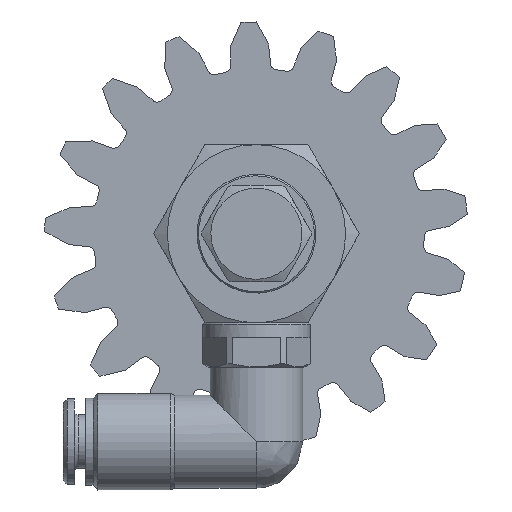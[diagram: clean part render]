
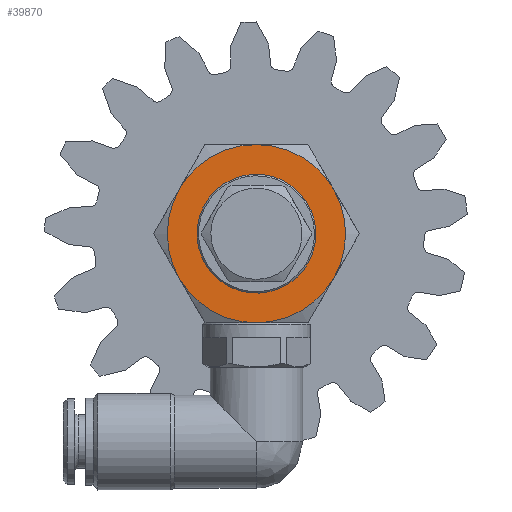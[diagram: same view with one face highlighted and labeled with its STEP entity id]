
A CAD part, front view. The second image highlights one B-rep face of the part: STEP entity #39870.
In plain terms, the highlighted planar face has unit normal (0, -1, 0).
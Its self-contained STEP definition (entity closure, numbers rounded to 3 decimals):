
#426 = VERTEX_POINT ( 'NONE', #39101 ) ;
#595 = ORIENTED_EDGE ( 'NONE', *, *, #33281, .F. ) ;
#2489 = DIRECTION ( 'NONE',  ( 0., 1., 0. ) ) ;
#3328 = CIRCLE ( 'NONE', #30589, 12. ) ;
#3571 = DIRECTION ( 'NONE',  ( 0., 1., 0. ) ) ;
#4240 = CARTESIAN_POINT ( 'NONE',  ( 12., 0., 0. ) ) ;
#5916 = ORIENTED_EDGE ( 'NONE', *, *, #23049, .F. ) ;
#7156 = EDGE_CURVE ( 'NONE', #8334, #35952, #3328, .T. ) ;
#7711 = CARTESIAN_POINT ( 'NONE',  ( 0., 0., 0. ) ) ;
#8142 = VERTEX_POINT ( 'NONE', #17313 ) ;
#8334 = VERTEX_POINT ( 'NONE', #10742 ) ;
#8405 = EDGE_CURVE ( 'NONE', #11146, #11146, #25584, .T. ) ;
#8453 = CARTESIAN_POINT ( 'NONE',  ( 0., 0., 3.75 ) ) ;
#8723 = CARTESIAN_POINT ( 'NONE',  ( 0., 0., 0. ) ) ;
#10207 = AXIS2_PLACEMENT_3D ( 'NONE', #4240, #3571, #12296 ) ;
#10742 = CARTESIAN_POINT ( 'NONE',  ( 0., 0., -12. ) ) ;
#11146 = VERTEX_POINT ( 'NONE', #8453 ) ;
#11642 = DIRECTION ( 'NONE',  ( 0., 1., 0. ) ) ;
#12296 = DIRECTION ( 'NONE',  ( 0., 0., 1. ) ) ;
#12713 = CARTESIAN_POINT ( 'NONE',  ( 0., 0., 0. ) ) ;
#13071 = AXIS2_PLACEMENT_3D ( 'NONE', #7711, #41907, #42557 ) ;
#13484 = CARTESIAN_POINT ( 'NONE',  ( 0., 0., 0. ) ) ;
#13778 = AXIS2_PLACEMENT_3D ( 'NONE', #18007, #18679, #18243 ) ;
#13913 = AXIS2_PLACEMENT_3D ( 'NONE', #24171, #27100, #16738 ) ;
#14031 = EDGE_LOOP ( 'NONE', ( #17997 ) ) ;
#15558 = ORIENTED_EDGE ( 'NONE', *, *, #37752, .F. ) ;
#16014 = CARTESIAN_POINT ( 'NONE',  ( 0., 0., 12. ) ) ;
#16581 = AXIS2_PLACEMENT_3D ( 'NONE', #13484, #41404, #34428 ) ;
#16738 = DIRECTION ( 'NONE',  ( 0., 0., 1. ) ) ;
#17313 = CARTESIAN_POINT ( 'NONE',  ( 10.392, 0., -6. ) ) ;
#17997 = ORIENTED_EDGE ( 'NONE', *, *, #8405, .T. ) ;
#18007 = CARTESIAN_POINT ( 'NONE',  ( 0., 0., 0. ) ) ;
#18243 = DIRECTION ( 'NONE',  ( 0., 0., 1. ) ) ;
#18621 = VERTEX_POINT ( 'NONE', #39748 ) ;
#18679 = DIRECTION ( 'NONE',  ( 0., 1., 0. ) ) ;
#19676 = DIRECTION ( 'NONE',  ( 0., 0., 1. ) ) ;
#20650 = FACE_BOUND ( 'NONE', #14031, .T. ) ;
#21854 = EDGE_LOOP ( 'NONE', ( #15558, #595, #23216, #39297, #25863, #5916 ) ) ;
#22210 = DIRECTION ( 'NONE',  ( 0., 0., 1. ) ) ;
#23049 = EDGE_CURVE ( 'NONE', #18621, #8142, #36891, .T. ) ;
#23216 = ORIENTED_EDGE ( 'NONE', *, *, #28266, .F. ) ;
#24171 = CARTESIAN_POINT ( 'NONE',  ( 0., 0., 0. ) ) ;
#24572 = CIRCLE ( 'NONE', #13071, 12. ) ;
#24691 = FACE_OUTER_BOUND ( 'NONE', #21854, .T. ) ;
#25584 = CIRCLE ( 'NONE', #37121, 3.75 ) ;
#25863 = ORIENTED_EDGE ( 'NONE', *, *, #31356, .F. ) ;
#27100 = DIRECTION ( 'NONE',  ( 0., 1., 0. ) ) ;
#28266 = EDGE_CURVE ( 'NONE', #35952, #426, #24572, .T. ) ;
#28869 = CIRCLE ( 'NONE', #13778, 12. ) ;
#30080 = DIRECTION ( 'NONE',  ( 0., 1., 0. ) ) ;
#30237 = CIRCLE ( 'NONE', #16581, 12. ) ;
#30589 = AXIS2_PLACEMENT_3D ( 'NONE', #8723, #30080, #22210 ) ;
#31356 = EDGE_CURVE ( 'NONE', #8142, #8334, #36202, .T. ) ;
#32854 = CARTESIAN_POINT ( 'NONE',  ( 0., 0., 0. ) ) ;
#33281 = EDGE_CURVE ( 'NONE', #426, #44122, #28869, .T. ) ;
#34428 = DIRECTION ( 'NONE',  ( 0., 0., 1. ) ) ;
#35308 = CARTESIAN_POINT ( 'NONE',  ( -10.392, 0., -6. ) ) ;
#35952 = VERTEX_POINT ( 'NONE', #35308 ) ;
#36202 = CIRCLE ( 'NONE', #13913, 12. ) ;
#36891 = CIRCLE ( 'NONE', #44077, 12. ) ;
#37121 = AXIS2_PLACEMENT_3D ( 'NONE', #32854, #2489, #39612 ) ;
#37752 = EDGE_CURVE ( 'NONE', #44122, #18621, #30237, .T. ) ;
#38445 = PLANE ( 'NONE',  #10207 ) ;
#39101 = CARTESIAN_POINT ( 'NONE',  ( -10.392, 0., 6. ) ) ;
#39297 = ORIENTED_EDGE ( 'NONE', *, *, #7156, .F. ) ;
#39612 = DIRECTION ( 'NONE',  ( 0., 0., 1. ) ) ;
#39748 = CARTESIAN_POINT ( 'NONE',  ( 10.392, 0., 6. ) ) ;
#39870 = ADVANCED_FACE ( 'NONE', ( #24691, #20650 ), #38445, .F. ) ;
#41404 = DIRECTION ( 'NONE',  ( 0., 1., 0. ) ) ;
#41907 = DIRECTION ( 'NONE',  ( 0., 1., 0. ) ) ;
#42557 = DIRECTION ( 'NONE',  ( 0., 0., 1. ) ) ;
#44077 = AXIS2_PLACEMENT_3D ( 'NONE', #12713, #11642, #19676 ) ;
#44122 = VERTEX_POINT ( 'NONE', #16014 ) ;
